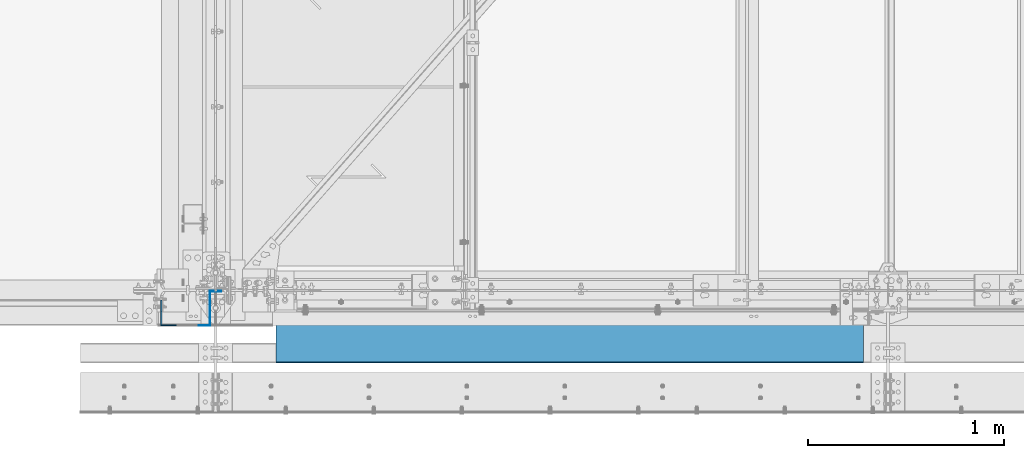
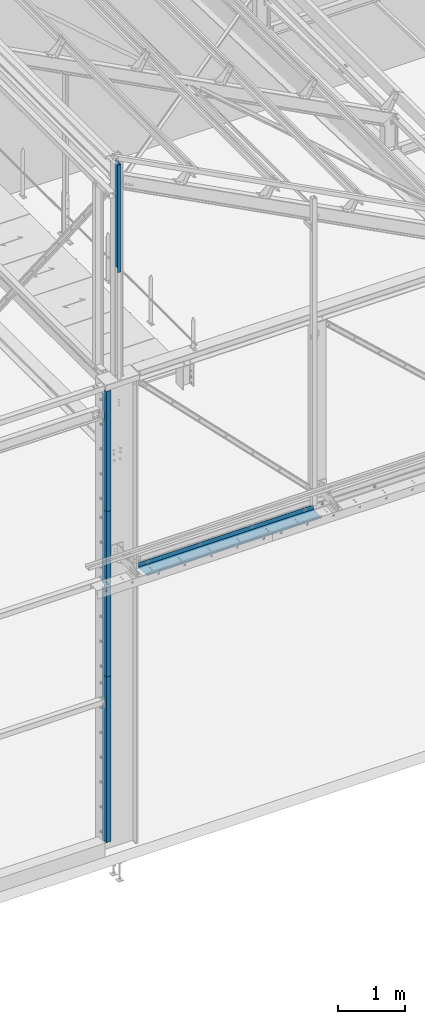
# One storey, part 342 of 362: 5 beams, 5 elements without a shape of their own.
"""IFC2X3 building model written with IfcOpenShell, lengths in millimetres."""

import ifcopenshell
import ifcopenshell.guid

model = None  # the IFC model being written
_history = None  # IfcOwnerHistory: only IFC2X3 demands one
_inside = {}  # id of a spatial element -> (the spatial element, [elements in it])
_under = {}  # id of a project, library or spatial element -> (it, [spatial elements below it])
_declared = {}  # id of a project -> (the project, [libraries it declares])
_typed = {}  # id of a type object -> (the type object, [elements of that type])
_made_of = {}  # id of a material, layer set ... -> (it, [elements and type objects made of it])


def new_model(schema):
    """Start an empty IFC model of exactly this schema.

    Asked for "IFC4X3", IfcOpenShell would pick the latest addendum, in which some entities
    have other attributes; the version numbers below select the first issue.
    IFC2X3 requires an IfcOwnerHistory on every rooted entity: one is made here for all.
    """
    global model, _history
    if schema == "IFC4X3":
        model = ifcopenshell.file(schema_version=(4, 3, 0, 0))
    else:
        model = ifcopenshell.file(schema=schema)
    _inside.clear()
    _under.clear()
    _declared.clear()
    _typed.clear()
    _made_of.clear()
    _history = None
    if model.schema == "IFC2X3":
        org = make("IfcOrganization", Name="unknown")
        user = make(
            "IfcPersonAndOrganization",
            ThePerson=make("IfcPerson", FamilyName="unknown"),
            TheOrganization=org,
        )
        app = make(
            "IfcApplication",
            ApplicationDeveloper=org,
            Version="unknown",
            ApplicationFullName="unknown",
            ApplicationIdentifier="unknown",
        )
        _history = make(
            "IfcOwnerHistory",
            OwningUser=user,
            OwningApplication=app,
            ChangeAction="ADDED",
            CreationDate=0,
        )
    return model


def make(cls, **values):
    """One entity of the class cls with the attributes given. An attribute that is None is left unset."""
    return model.create_entity(
        cls, **{name: value for name, value in values.items() if value is not None}
    )


def rooted(cls, **values):
    """An entity with a GlobalId (a new one), such as an element, a storey or a relation."""
    return make(cls, GlobalId=ifcopenshell.guid.new(), OwnerHistory=_history, **values)


def si_unit(unit_type, name, prefix=None):
    """IfcSIUnit, for example si_unit("LENGTHUNIT", "METRE", prefix="MILLI")."""
    return make("IfcSIUnit", UnitType=unit_type, Prefix=prefix, Name=name)


def assignment(units):
    """IfcUnitAssignment: the units of a project."""
    return None if units is None else make("IfcUnitAssignment", Units=units)


def point(xyz):
    """IfcCartesianPoint."""
    return None if xyz is None else make("IfcCartesianPoint", Coordinates=xyz)


def direction(xyz):
    """IfcDirection."""
    return None if xyz is None else make("IfcDirection", DirectionRatios=xyz)


def frame(location, z_axis=None, x_axis=None):
    """IfcAxis2Placement3D, a coordinate frame: its origin and axes. An axis left out is left unset."""
    return make(
        "IfcAxis2Placement3D",
        Location=point(location),
        Axis=direction(z_axis),
        RefDirection=direction(x_axis),
    )


def origin_with_axes():
    """The frame at (0, 0, 0) with the z axis (0, 0, 1) and the x axis (1, 0, 0) written out."""
    return frame((0.0, 0.0, 0.0), z_axis=(0.0, 0.0, 1.0), x_axis=(1.0, 0.0, 0.0))


def place(relative_to, where):
    """IfcLocalPlacement: puts the frame where relative to a parent placement (None: the world)."""
    return make(
        "IfcLocalPlacement", PlacementRelTo=relative_to, RelativePlacement=where
    )


def context(
    kind, dimensions, precision=None, world=None, true_north=None, identifier=None
):
    """IfcGeometricRepresentationContext, for example the 3D "Model" context."""
    return make(
        "IfcGeometricRepresentationContext",
        ContextIdentifier=identifier,
        ContextType=kind,
        CoordinateSpaceDimension=dimensions,
        Precision=precision,
        WorldCoordinateSystem=world,
        TrueNorth=true_north,
    )


def subcontext(parent, identifier, kind, view, scale=None):
    """IfcGeometricRepresentationSubContext, for example "Body" below "Model"."""
    return make(
        "IfcGeometricRepresentationSubContext",
        ContextIdentifier=identifier,
        ContextType=kind,
        ParentContext=parent,
        TargetScale=scale,
        TargetView=view,
    )


def project(units=None, contexts=None):
    """IfcProject with its units and contexts."""
    return rooted(
        "IfcProject",
        Name="project",
        RepresentationContexts=contexts,
        UnitsInContext=assignment(units),
    )


def spatial(cls, under=None, at=None, **own):
    """A site, building, storey or space (cls), placed at a placement, below another one or the project."""
    s = rooted(cls, ObjectPlacement=at, **own)
    if under is not None:
        _under.setdefault(under.id(), (under, []))[1].append(s)
    return s


def faces_of(points, faces, orient=None, outer=None):
    """IfcFace entities. A face is a list of loops; a loop is a list of indices into points, from 0.

    orient and outer hold one flag for each loop. By default every Orientation is true, the
    first loop of a face is its IfcFaceOuterBound and the others are IfcFaceBound.
    """
    made = []
    for i, loops in enumerate(faces):
        bounds = []
        for j, loop in enumerate(loops):
            is_outer = j == 0 if outer is None else outer[i][j]
            bounds.append(
                make(
                    "IfcFaceOuterBound" if is_outer else "IfcFaceBound",
                    Bound=make("IfcPolyLoop", Polygon=[points[k] for k in loop]),
                    Orientation=True if orient is None else orient[i][j],
                )
            )
        made.append(make("IfcFace", Bounds=bounds))
    return made


def faceted_brep(points, faces, orient=None, outer=None, voids=None):
    """IfcFacetedBrep: a solid bounded by flat faces; with voids (closed shells), ...WithVoids."""
    shared = [point(p) for p in points]
    hull = make("IfcClosedShell", CfsFaces=faces_of(shared, faces, orient, outer))
    if voids is None:
        return make("IfcFacetedBrep", Outer=hull)
    return make(
        "IfcFacetedBrepWithVoids",
        Outer=hull,
        Voids=[
            make(cls, CfsFaces=faces_of(shared, fs, o, b)) for cls, fs, o, b in voids
        ],
    )


def shape(context_of_items, identifier, shape_type, items):
    """IfcShapeRepresentation: the items that make up one representation, for example the "Body"."""
    return make(
        "IfcShapeRepresentation",
        ContextOfItems=context_of_items,
        RepresentationIdentifier=identifier,
        RepresentationType=shape_type,
        Items=items,
    )


def material(Name=None, Category=None):
    """IfcMaterial."""
    return make("IfcMaterial", Name=Name, Category=Category)


def made_of(thing, what):
    """Note that an element or type object is made of a material, layer set ...; save() writes the relation."""
    if what is not None:
        _made_of.setdefault(what.id(), (what, []))[1].append(thing)
    return thing


def type_object(cls, material=None, **own):
    """A type object (cls), such as IfcWallType, which elements share."""
    return made_of(rooted(cls, **own), material)


def element(
    cls,
    number,
    at=None,
    inside=None,
    cuts=None,
    type_object=None,
    material=None,
    context=None,
    identifier="Body",
    shape_type=None,
    held_by="IfcProductDefinitionShape",
    body=None,
    shapes=None,
    **own,
):
    """One element of the class cls, such as IfcWall. Its Tag is "e" and its number.

    at: its placement. inside: the storey or other place that contains it. cuts: it is an
    opening in that element (IfcRelVoidsElement). A single representation is given by context,
    identifier, shape_type and body (its items); several are given by shapes. held_by: the class
    of the entity that holds the representations. save() writes the other relations.
    """
    e = rooted(cls, Tag="e%d" % number, ObjectPlacement=at, **own)
    if body is not None:
        shapes = [shape(context, identifier, shape_type, body)]
    if shapes is not None:
        e.Representation = make(held_by, Representations=shapes)
    if inside is not None:
        _inside.setdefault(inside.id(), (inside, []))[1].append(e)
    if cuts is not None:
        rooted(
            "IfcRelVoidsElement", RelatingBuildingElement=cuts, RelatedOpeningElement=e
        )
    if type_object is not None:
        _typed.setdefault(type_object.id(), (type_object, []))[1].append(e)
    return made_of(e, material)


def aggregate(whole, parts):
    """IfcRelAggregates: a whole, such as a stair, and the parts it consists of."""
    return rooted("IfcRelAggregates", RelatingObject=whole, RelatedObjects=parts)


def save(model, path):
    """Write the relations noted so far, then the file.

    IfcRelAggregates (storeys below a building ...), IfcRelContainedInSpatialStructure (elements
    in a storey), IfcRelDefinesByType, IfcRelAssociatesMaterial and IfcRelDeclares: one each for
    every whole, place, type object, material and project.
    """
    for whole, parts in _under.values():
        aggregate(whole, parts)
    for where, things in _inside.values():
        rooted(
            "IfcRelContainedInSpatialStructure",
            RelatedElements=things,
            RelatingStructure=where,
        )
    for kind, things in _typed.values():
        rooted("IfcRelDefinesByType", RelatedObjects=things, RelatingType=kind)
    for what, things in _made_of.values():
        rooted("IfcRelAssociatesMaterial", RelatedObjects=things, RelatingMaterial=what)
    for by, libraries in _declared.values():
        rooted("IfcRelDeclares", RelatingContext=by, RelatedDefinitions=libraries)
    model.write(path)


model = new_model("IFC2X3")

# Units and contexts
model_context = context("Model", 3, precision=1e-05, world=origin_with_axes())
body_context = subcontext(model_context, "Body", "Model", "MODEL_VIEW")
ifc_project = project(units=[si_unit("LENGTHUNIT", "METRE", prefix="MILLI"), si_unit("AREAUNIT", "SQUARE_METRE"), si_unit("VOLUMEUNIT", "CUBIC_METRE"), si_unit("MASSUNIT", "GRAM", prefix="KILO"), si_unit("TIMEUNIT", "SECOND"), si_unit("PLANEANGLEUNIT", "RADIAN"), si_unit("SOLIDANGLEUNIT", "STERADIAN"), si_unit("THERMODYNAMICTEMPERATUREUNIT", "DEGREE_CELSIUS"), si_unit("LUMINOUSINTENSITYUNIT", "LUMEN")], contexts=[model_context])

# Site, building, storey
site_placement = place(None, origin_with_axes())
site = spatial("IfcSite", under=ifc_project, at=site_placement, Name="Undefined", CompositionType="ELEMENT")
building_placement = place(site_placement, origin_with_axes())
building = spatial("IfcBuilding", under=site, at=building_placement, Name="Undefined", CompositionType="ELEMENT")
storey_placement = place(building_placement, origin_with_axes())
storey = spatial("IfcBuildingStorey", under=building, at=storey_placement, Name="Undefined", CompositionType="ELEMENT", Elevation=0.0)

# Assembly, beam
assembly_1_placement = place(storey_placement, origin_with_axes())
assembly_1 = element("IfcElementAssembly", 1, at=assembly_1_placement, inside=storey, Name="SUPPORT", AssemblyPlace="NOTDEFINED", PredefinedType="NOTDEFINED")
ifc_material = material(Name="Undefined/S235-E24")
beam_type_1 = type_object("IfcBeamType", Name="PL3*3000", PredefinedType="NOTDEFINED")
beam_1_placement = place(assembly_1_placement, frame((14489.9999999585, -111.5, 5080.00085614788), z_axis=(1.0, 0.0, 0.0), x_axis=(0.0, 0.0, -1.0)))
beam_1 = element("IfcBeam", 2, at=beam_1_placement, type_object=beam_type_1, material=ifc_material, Name="SUPPORT CHARGE BARDAG", ObjectType="PL3*3000", context=body_context, shape_type="Brep", body=[
    faceted_brep([(0.0, -1.5, -1500.0), (0.0, -1.5, 1500.0), (0.0, 1.5, 1500.0), (0.0, 1.5, -1500.0), (80.0, 1.5, 1500.0), (80.0, 1.5, -1500.0), (77.0, -1.5, -1500.0), (77.0, -1.5, 1500.0), (80.0, -258.5, 1500.0), (80.0, -258.5, -1500.0), (77.0, -255.5, -1500.0), (77.0, -255.5, 1500.0), (30.0000019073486, -258.5, 1500.0), (30.0000019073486, -258.5, -1500.0), (30.0000019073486, -255.5, 1500.0), (30.0000019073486, -255.5, -1500.0)], [[[0, 1, 2, 3]], [[3, 2, 4, 5]], [[1, 0, 6, 7]], [[5, 4, 8, 9]], [[7, 6, 10, 11]], [[9, 8, 12, 13]], [[8, 4, 2, 1, 7, 11, 14, 12]], [[11, 10, 15, 14]], [[10, 6, 0, 3, 5, 9, 13, 15]], [[14, 15, 13, 12]]]),
])
aggregate(assembly_1, [beam_1])

assembly_2_placement = place(storey_placement, origin_with_axes())
assembly_2 = element("IfcElementAssembly", 3, at=assembly_2_placement, inside=storey, AssemblyPlace="NOTDEFINED", PredefinedType="NOTDEFINED")
beam_type_2 = type_object("IfcBeamType", Name="PL5*2180", PredefinedType="NOTDEFINED")
beam_2_placement = place(assembly_2_placement, frame((12479.0000332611, -177.499999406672, 7340.0000156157), z_axis=(0.0, 0.0, 1.0), x_axis=(-1.0, 0.0, 0.0)))
beam_2 = element("IfcBeam", 4, at=beam_2_placement, type_object=beam_type_2, material=ifc_material, Name="FEUILLURE", ObjectType="PL5*2180", context=body_context, shape_type="Brep", body=[
    faceted_brep([(75.0000295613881, -127.499991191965, 539.998718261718), (80.0000295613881, -127.500000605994, 539.998718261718), (80.0000299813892, -67.4999999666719, 539.998718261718), (75.0000299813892, -67.4999999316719, 539.998718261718), (80.0000299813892, -67.4999999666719, 679.999999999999), (75.0000299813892, -67.4999999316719, 679.999999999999), (75.0000295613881, -127.499999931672, 679.999999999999), (80.0000295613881, -127.500000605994, 679.999999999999), (-1.04046193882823e-09, -2.50000000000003, -1090.0), (-1.04046193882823e-09, -2.50000000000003, 1090.0), (1.04409991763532e-09, 2.49999999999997, 1090.0), (1.04409991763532e-09, 2.49999999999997, -1090.0), (80.0000304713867, 2.50000003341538, 1090.0), (80.0000304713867, 2.50000003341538, -1090.0), (75.0000304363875, -2.49999996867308, -1090.0), (80.0000295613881, -127.500000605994, -1090.0), (75.0000295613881, -127.500000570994, -1090.0), (75.0000304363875, -2.49999996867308, 1090.0), (75.0000299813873, -67.4999999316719, 1090.0), (80.0000299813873, -67.4999999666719, 1090.0), (75.0000299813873, -67.4999999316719, 1009.99871063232), (80.0000299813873, -67.4999999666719, 1009.99871063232), (75.0000295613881, -127.49998848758, 1009.99871063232), (80.0000295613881, -127.500000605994, 1009.99871063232)], [[[0, 1, 2, 3]], [[3, 2, 4, 5]], [[6, 5, 4, 7]], [[8, 9, 10, 11]], [[11, 10, 12, 13]], [[14, 8, 11, 13, 15, 16]], [[9, 8, 14, 17]], [[12, 10, 9, 17, 18, 19]], [[18, 20, 21, 19]], [[22, 23, 21, 20]], [[23, 22, 6, 7]], [[2, 1, 15, 13, 12, 19, 21, 23, 7, 4]], [[16, 15, 1, 0]], [[22, 20, 18, 17, 14, 16, 0, 3, 5, 6]]]),
])
aggregate(assembly_2, [beam_2])

assembly_3_placement = place(storey_placement, origin_with_axes())
assembly_3 = element("IfcElementAssembly", 5, at=assembly_3_placement, inside=storey, AssemblyPlace="NOTDEFINED", PredefinedType="NOTDEFINED")
beam_type_3 = type_object("IfcBeamType", Name="PL5*3000", PredefinedType="NOTDEFINED")
beam_3_placement = place(assembly_3_placement, frame((12479.0000322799, -177.499999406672, 4750.0000156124), z_axis=(0.0, 0.0, 1.0), x_axis=(-1.0, 0.0, 0.0)))
beam_3 = element("IfcBeam", 6, at=beam_3_placement, type_object=beam_type_3, material=ifc_material, Name="FEUILLURE", ObjectType="PL5*3000", context=body_context, shape_type="Brep", body=[
    faceted_brep([(75.0000295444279, -127.500000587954, 79.99218047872), (80.0000295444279, -127.500000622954, 79.99218047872), (80.0000299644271, -67.4999919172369, 79.99218047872), (75.0000299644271, -67.4999918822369, 79.99218047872), (80.0000299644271, -67.4999919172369, 149.99218047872), (75.0000299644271, -67.4999918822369, 149.99218047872), (75.0000295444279, -127.499991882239, 149.99218047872), (80.0000295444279, -127.500000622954, 149.99218047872), (-1.04046193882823e-09, -2.5, -1500.0), (-1.04046193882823e-09, -2.5, 1500.0), (1.04409991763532e-09, 2.5, 1500.0), (1.04409991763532e-09, 2.5, -1500.0), (80.0000304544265, 2.50000003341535, 1500.0), (80.0000304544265, 2.50000003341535, -1500.0), (75.0000304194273, -2.49999996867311, -1500.0), (80.0000295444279, -127.500000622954, -1500.0), (75.0000295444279, -127.500000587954, -1500.0), (75.0000304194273, -2.49999996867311, 1500.0), (75.0000295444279, -127.500000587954, 1500.0), (80.0000295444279, -127.500000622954, 1500.0)], [[[0, 1, 2, 3]], [[3, 2, 4, 5]], [[6, 5, 4, 7]], [[8, 9, 10, 11]], [[11, 10, 12, 13]], [[14, 8, 11, 13, 15, 16]], [[9, 8, 14, 17]], [[12, 10, 9, 17, 18, 19]], [[19, 18, 6, 7]], [[2, 1, 15, 13, 12, 19, 7, 4]], [[16, 15, 1, 0]], [[18, 17, 14, 16, 0, 3, 5, 6]]]),
])
aggregate(assembly_3, [beam_3])

assembly_4_placement = place(storey_placement, origin_with_axes())
assembly_4 = element("IfcElementAssembly", 7, at=assembly_4_placement, inside=storey, AssemblyPlace="NOTDEFINED", PredefinedType="NOTDEFINED")
beam_4_placement = place(assembly_4_placement, frame((12479.0000313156, -177.499999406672, 1750.00001560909), z_axis=(0.0, 0.0, 1.0), x_axis=(-1.0, 0.0, 0.0)))
beam_4 = element("IfcBeam", 8, at=beam_4_placement, type_object=beam_type_3, material=ifc_material, Name="FEUILLURE", ObjectType="PL5*3000", context=body_context, shape_type="Brep", body=[
    faceted_brep([(75.0000295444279, -127.500000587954, 979.996082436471), (80.0000295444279, -127.500000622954, 979.996082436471), (80.0000299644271, -67.5000006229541, 979.996082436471), (75.0000299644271, -67.5000005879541, 979.996082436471), (80.0000299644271, -67.5000006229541, 1049.99608243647), (75.0000299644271, -67.5000005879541, 1049.99608243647), (75.0000295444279, -127.500000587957, 1049.99608243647), (80.0000295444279, -127.500000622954, 1049.99608243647), (-1.04046193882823e-09, -2.5, -1500.0), (-1.04046193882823e-09, -2.5, 1500.0), (1.04409991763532e-09, 2.5, 1500.0), (1.04409991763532e-09, 2.5, -1500.0), (80.0000304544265, 2.50000003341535, 1500.0), (80.0000304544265, 2.50000003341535, -1500.0), (75.0000304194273, -2.49999996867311, -1500.0), (80.0000295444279, -127.500000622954, -1500.0), (75.0000295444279, -127.500000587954, -1500.0), (75.0000304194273, -2.49999996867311, 1500.0), (75.0000295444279, -127.500000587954, 1500.0), (80.0000295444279, -127.500000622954, 1500.0)], [[[0, 1, 2, 3]], [[3, 2, 4, 5]], [[6, 5, 4, 7]], [[8, 9, 10, 11]], [[11, 10, 12, 13]], [[14, 8, 11, 13, 15, 16]], [[9, 8, 14, 17]], [[12, 10, 9, 17, 18, 19]], [[19, 18, 6, 7]], [[2, 1, 15, 13, 12, 19, 7, 4]], [[16, 15, 1, 0]], [[18, 17, 14, 16, 0, 3, 5, 6]]]),
])
aggregate(assembly_4, [beam_4])

assembly_5_placement = place(storey_placement, origin_with_axes())
assembly_5 = element("IfcElementAssembly", 9, at=assembly_5_placement, inside=storey, AssemblyPlace="NOTDEFINED", PredefinedType="NOTDEFINED")
beam_type_4 = type_object("IfcBeamType", Name="PL3*1950", PredefinedType="NOTDEFINED")
beam_5_placement = place(assembly_5_placement, frame((12710.0000002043, -4.25, 11495.0000000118), z_axis=(0.0, 0.0, 1.0), x_axis=(-1.0, 0.0, 0.0)))
beam_5 = element("IfcBeam", 10, at=beam_5_placement, type_object=beam_type_4, material=ifc_material, Name="FEUILLURE", ObjectType="PL3*1950", context=body_context, shape_type="Brep", body=[
    faceted_brep([(0.0, -1.5, -975.0), (0.0, -1.5, 975.0), (0.0, 1.5, 975.0), (0.0, 1.5, -975.0), (56.9999998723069, 1.5, 975.0), (56.9999998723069, 1.5, -975.0), (59.9999998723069, -1.5, -975.0), (59.9999998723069, -1.5, 975.0), (56.9999998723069, 175.75, 975.0), (56.9999998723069, 175.75, -975.0), (59.9999998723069, 172.75, -975.0), (59.9999998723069, 172.75, 975.0), (117.0, 175.75, 975.0), (117.0, 175.75, -975.0), (117.0, 172.75, 975.0), (117.0, 172.75, -975.0)], [[[0, 1, 2, 3]], [[3, 2, 4, 5]], [[1, 0, 6, 7]], [[5, 4, 8, 9]], [[7, 6, 10, 11]], [[9, 8, 12, 13]], [[8, 4, 2, 1, 7, 11, 14, 12]], [[11, 10, 15, 14]], [[10, 6, 0, 3, 5, 9, 13, 15]], [[14, 15, 13, 12]]]),
])
aggregate(assembly_5, [beam_5])

save(model, "model.ifc")
